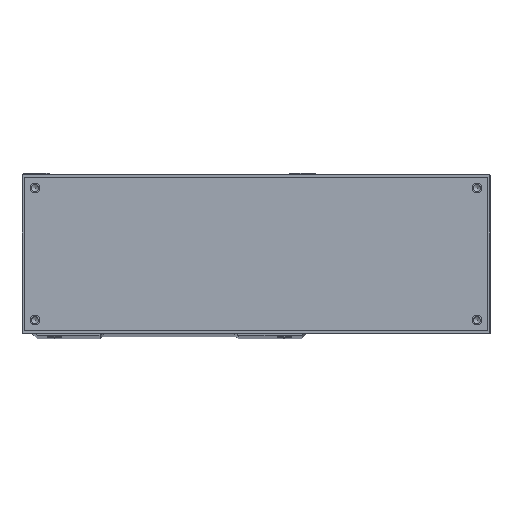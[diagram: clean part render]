
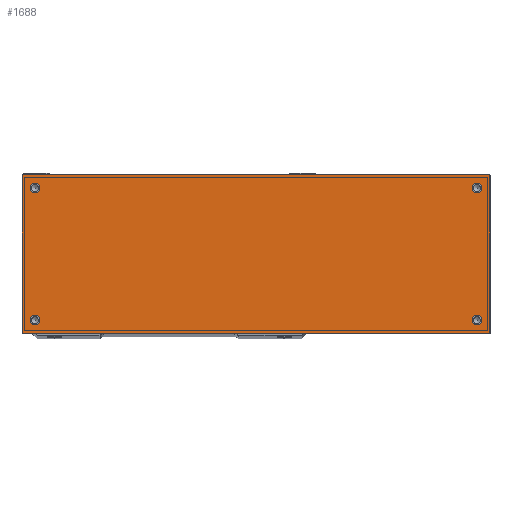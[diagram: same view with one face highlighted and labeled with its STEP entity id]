
A CAD part, top view. The second image highlights one B-rep face of the part: STEP entity #1688.
In plain terms, the highlighted planar face has unit normal (0, 0, 1).
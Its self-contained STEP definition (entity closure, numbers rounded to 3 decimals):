
#1688=ADVANCED_FACE('8',(#2856,#2857,#2858,#2859,#2860),#2407,.F.);
#2407=PLANE('',#16544);
#2856=FACE_BOUND('',#3914,.T.);
#2857=FACE_BOUND('',#3915,.T.);
#2858=FACE_BOUND('',#3916,.T.);
#2859=FACE_BOUND('',#3917,.T.);
#2860=FACE_BOUND('',#3918,.T.);
#3914=EDGE_LOOP('',(#8809));
#3915=EDGE_LOOP('',(#8810));
#3916=EDGE_LOOP('',(#8811));
#3917=EDGE_LOOP('',(#8812));
#3918=EDGE_LOOP('',(#8813,#8814,#8815,#8816));
#5370=LINE('',#25301,#6457);
#5379=LINE('',#25319,#6466);
#5407=LINE('',#25800,#6494);
#5408=LINE('',#25802,#6495);
#6457=VECTOR('',#19468,1.);
#6466=VECTOR('',#19485,1.);
#6494=VECTOR('',#19627,1.);
#6495=VECTOR('',#19628,1.);
#8809=ORIENTED_EDGE('',*,*,#13929,.F.);
#8810=ORIENTED_EDGE('',*,*,#13930,.F.);
#8811=ORIENTED_EDGE('',*,*,#13931,.F.);
#8812=ORIENTED_EDGE('',*,*,#13932,.F.);
#8813=ORIENTED_EDGE('',*,*,#13933,.F.);
#8814=ORIENTED_EDGE('',*,*,#13934,.F.);
#8815=ORIENTED_EDGE('',*,*,#13850,.F.);
#8816=ORIENTED_EDGE('',*,*,#13860,.F.);
#12039=VERTEX_POINT('',#25300);
#12040=VERTEX_POINT('',#25302);
#12044=VERTEX_POINT('',#25318);
#12075=VERTEX_POINT('',#25793);
#12076=VERTEX_POINT('',#25795);
#12077=VERTEX_POINT('',#25797);
#12078=VERTEX_POINT('',#25799);
#12079=VERTEX_POINT('',#25801);
#13850=EDGE_CURVE('',#12039,#12040,#5370,.T.);
#13860=EDGE_CURVE('',#12044,#12039,#5379,.T.);
#13929=EDGE_CURVE('',#12075,#12075,#15370,.T.);
#13930=EDGE_CURVE('',#12076,#12076,#15371,.T.);
#13931=EDGE_CURVE('',#12077,#12077,#15372,.T.);
#13932=EDGE_CURVE('',#12078,#12078,#15373,.T.);
#13933=EDGE_CURVE('',#12079,#12044,#5407,.T.);
#13934=EDGE_CURVE('',#12040,#12079,#5408,.T.);
#15370=CIRCLE('',#16540,2.25);
#15371=CIRCLE('',#16541,2.25);
#15372=CIRCLE('',#16542,2.25);
#15373=CIRCLE('',#16543,2.25);
#16540=AXIS2_PLACEMENT_3D('',#25792,#19619,#19620);
#16541=AXIS2_PLACEMENT_3D('',#25794,#19621,#19622);
#16542=AXIS2_PLACEMENT_3D('',#25796,#19623,#19624);
#16543=AXIS2_PLACEMENT_3D('',#25798,#19625,#19626);
#16544=AXIS2_PLACEMENT_3D('',#25803,#19629,#19630);
#19468=DIRECTION('',(0.,1.,0.));
#19485=DIRECTION('',(-1.,0.,0.));
#19619=DIRECTION('',(0.,0.,1.));
#19620=DIRECTION('',(-1.,0.,0.));
#19621=DIRECTION('',(0.,0.,1.));
#19622=DIRECTION('',(1.,0.,0.));
#19623=DIRECTION('',(0.,0.,1.));
#19624=DIRECTION('',(-1.,0.,0.));
#19625=DIRECTION('',(0.,0.,1.));
#19626=DIRECTION('',(1.,0.,0.));
#19627=DIRECTION('',(0.,-1.,0.));
#19628=DIRECTION('',(1.,0.,0.));
#19629=DIRECTION('',(0.,0.,-1.));
#19630=DIRECTION('',(1.,0.,0.));
#25300=CARTESIAN_POINT('',(-68.,0.,193.));
#25301=CARTESIAN_POINT('',(-68.,73.,193.));
#25302=CARTESIAN_POINT('',(-68.,73.,193.));
#25318=CARTESIAN_POINT('',(148.,0.,193.));
#25319=CARTESIAN_POINT('',(148.,0.,193.));
#25792=CARTESIAN_POINT('',(-62.,6.,193.));
#25793=CARTESIAN_POINT('',(-64.25,6.,193.));
#25794=CARTESIAN_POINT('',(142.,6.,193.));
#25795=CARTESIAN_POINT('',(144.25,6.,193.));
#25796=CARTESIAN_POINT('',(142.,67.,193.));
#25797=CARTESIAN_POINT('',(139.75,67.,193.));
#25798=CARTESIAN_POINT('',(-62.,67.,193.));
#25799=CARTESIAN_POINT('',(-59.75,67.,193.));
#25800=CARTESIAN_POINT('',(148.,73.,193.));
#25801=CARTESIAN_POINT('',(148.,73.,193.));
#25802=CARTESIAN_POINT('',(148.,73.,193.));
#25803=CARTESIAN_POINT('',(40.,36.5,193.));
